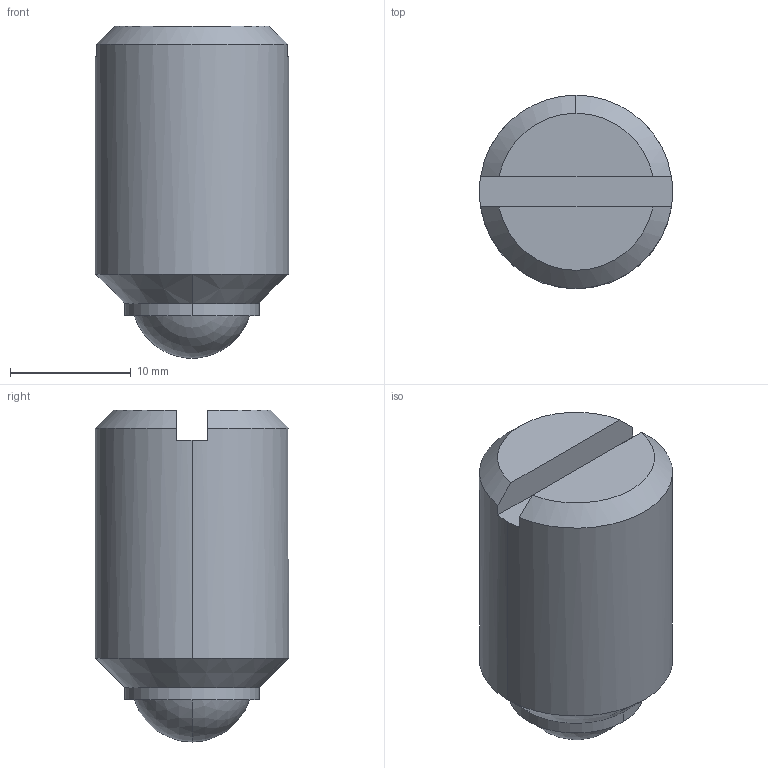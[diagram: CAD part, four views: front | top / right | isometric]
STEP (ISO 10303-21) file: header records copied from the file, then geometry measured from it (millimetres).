
FILE_DESCRIPTION (( 'STEP AP203' ), '1' );
FILE_NAME ('lbsuh16.STEP', '2021-10-25T02:47:55', ( '' ), ( '' ), 'SwSTEP 2.0', 'SolidWorks 2020', '' );
FILE_SCHEMA (( 'CONFIG_CONTROL_DESIGN' ));
Length unit declared in the file: millimetre
Products named in the file (1): lbsuh16
Bounding box: 16 x 16 x 27.48 mm (x, y, z)
Volume: 4586.3 mm3; surface area: 1570.9 mm2
Topology: 1 solids, 1 shells, 17 faces, 40 edges, 26 vertices
Faces by surface type: plane 6, cone 5, cylinder 4, sphere 2
Entity records: 580 total; most frequent: CARTESIAN_POINT 96, DIRECTION 93, ORIENTED_EDGE 80, EDGE_CURVE 40, AXIS2_PLACEMENT_3D 39, VERTEX_POINT 26, CIRCLE 21, EDGE_LOOP 18
